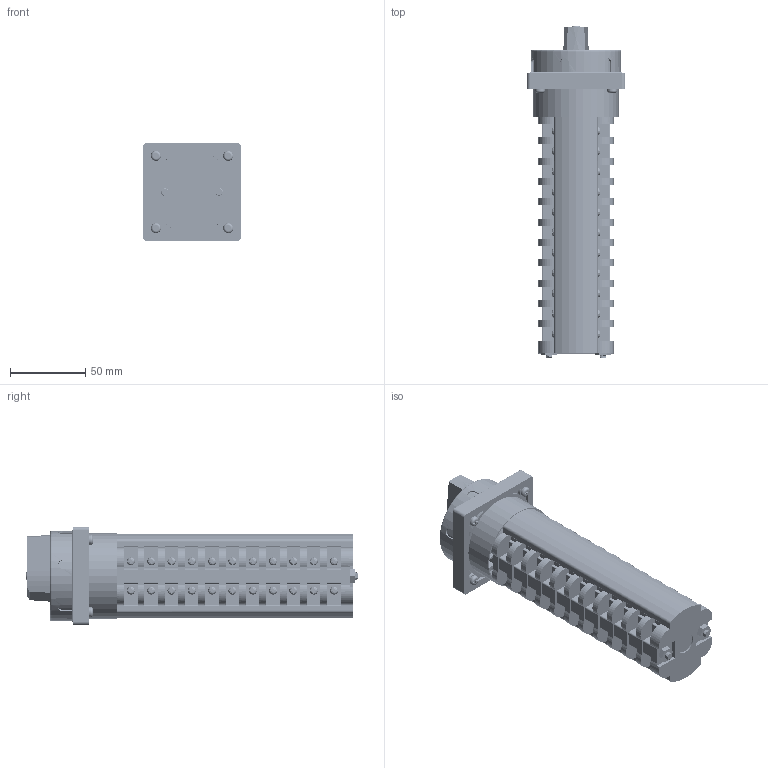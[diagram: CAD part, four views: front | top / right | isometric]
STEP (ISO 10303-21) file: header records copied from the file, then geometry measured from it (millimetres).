
FILE_DESCRIPTION(/* description */ (''),/* implementation_level */ '2;1');
FILE_NAME(/* name */ '4G16,25_S6_11_korpusow.stp',/* time_stamp */ '2021-07-21T10:50:23+02:00',/* author */ (''),/* organization */ (''),/* preprocessor_version */ 'ST-DEVELOPER v18.1',/* originating_system */ 'SIEMENS PLM Software NX 1965',/* authorisation */ '');
FILE_SCHEMA (('AUTOMOTIVE_DESIGN { 1 0 10303 214 3 1 1 1 }'));
Products named in the file (1): 4G16,25_S6_11_korpusow_stp
Bounding box: 65 x 220.6 x 65 mm (x, y, z)
Volume: 412462.8 mm3; surface area: 92281.8 mm2
Topology: 2 solids, 11 shells, 2379 faces, 6668 edges, 4393 vertices
Faces by surface type: plane 1423, cylinder 630, bspline 211, cone 94, torus 15, extrusion 6
Full cylindrical faces by diameter (mm): 2.9 x7, 3.1 x1, 4.3 x4, 5 x2, 5.4 x45, 5.6 x1, 6 x1, 6.7 x4, 7.2 x4, 8 x1, 14 x1, 55.8 x1, 57 x1, 58 x1, 60 x1
Entity records: 217267 total; most frequent: CARTESIAN_POINT 158959, ORIENTED_EDGE 12812, DIRECTION 10955, EDGE_CURVE 6406, VERTEX_POINT 4266, AXIS2_PLACEMENT_3D 3918, VECTOR 3119, LINE 3113
